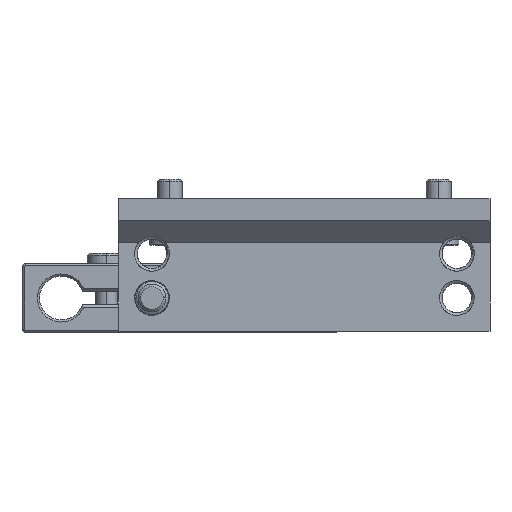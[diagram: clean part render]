
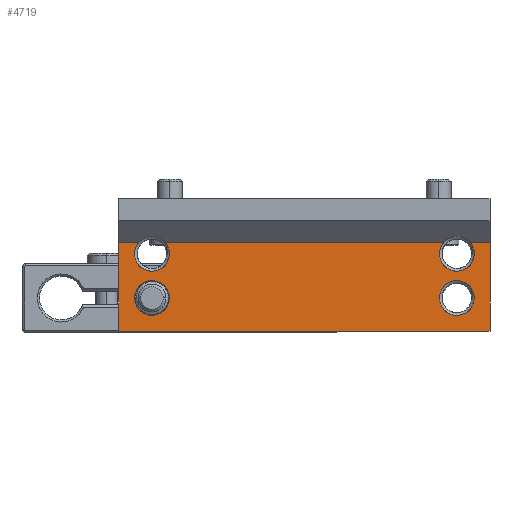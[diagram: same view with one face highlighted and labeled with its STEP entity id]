
A CAD part, front view. The second image highlights one B-rep face of the part: STEP entity #4719.
In plain terms, the highlighted planar face has unit normal (0, -1, 0).
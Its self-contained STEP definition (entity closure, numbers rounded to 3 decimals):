
#1614=DIRECTION('',(0.,0.,-1.));
#1615=VECTOR('',#1614,10.16);
#1616=CARTESIAN_POINT('',(26.541,-8.286,
0.98));
#1617=LINE('',#1616,#1615);
#1646=CARTESIAN_POINT('',(22.731,-8.286,
-0.29));
#1647=DIRECTION('',(0.,1.,0.));
#1648=DIRECTION('',(0.,0.,-1.));
#1649=AXIS2_PLACEMENT_3D('',#1646,#1647,#1648);
#1651=CARTESIAN_POINT('',(22.731,-8.286,
-0.29));
#1652=DIRECTION('',(0.,1.,0.));
#1653=DIRECTION('',(0.773,0.,0.635));
#1654=AXIS2_PLACEMENT_3D('',#1651,#1652,#1653);
#1656=DIRECTION('',(1.,0.,0.));
#1657=VECTOR('',#1656,42.672);
#1658=CARTESIAN_POINT('',(-16.131,-8.286,
-9.18));
#1659=LINE('',#1658,#1657);
#1660=DIRECTION('',(0.,0.,-1.));
#1661=VECTOR('',#1660,10.16);
#1662=CARTESIAN_POINT('',(-16.131,-8.286,
0.98));
#1663=LINE('',#1662,#1661);
#1664=CARTESIAN_POINT('',(-12.321,-8.286,
-0.29));
#1665=DIRECTION('',(0.,1.,0.));
#1666=DIRECTION('',(0.,0.,-1.));
#1667=AXIS2_PLACEMENT_3D('',#1664,#1665,#1666);
#1669=CARTESIAN_POINT('',(-12.321,-8.286,
-0.29));
#1670=DIRECTION('',(0.,1.,0.));
#1671=DIRECTION('',(0.773,0.,0.635));
#1672=AXIS2_PLACEMENT_3D('',#1669,#1670,#1671);
#1674=CARTESIAN_POINT('',(22.731,-8.286,
-5.37));
#1675=DIRECTION('',(0.,1.,0.));
#1676=DIRECTION('',(0.,0.,-1.));
#1677=AXIS2_PLACEMENT_3D('',#1674,#1675,#1676);
#1679=CARTESIAN_POINT('',(22.731,-8.286,
-5.37));
#1680=DIRECTION('',(0.,1.,0.));
#1681=DIRECTION('',(0.,0.,1.));
#1682=AXIS2_PLACEMENT_3D('',#1679,#1680,#1681);
#1684=CARTESIAN_POINT('',(-12.321,-8.286,
-5.37));
#1685=DIRECTION('',(0.,1.,0.));
#1686=DIRECTION('',(0.,0.,-1.));
#1687=AXIS2_PLACEMENT_3D('',#1684,#1685,#1686);
#1689=CARTESIAN_POINT('',(-12.321,-8.286,
-5.37));
#1690=DIRECTION('',(0.,1.,0.));
#1691=DIRECTION('',(0.,0.,1.));
#1692=AXIS2_PLACEMENT_3D('',#1689,#1690,#1691);
#2227=CARTESIAN_POINT('',(21.186,-8.286,
0.98));
#2234=DIRECTION('',(1.,0.,0.));
#2235=VECTOR('',#2234,31.962);
#2236=CARTESIAN_POINT('',(-10.776,-8.286,
0.98));
#2237=LINE('',#2236,#2235);
#2243=CARTESIAN_POINT('',(-10.776,-8.286,
0.98));
#2252=DIRECTION('',(1.,0.,0.));
#2253=VECTOR('',#2252,2.265);
#2254=CARTESIAN_POINT('',(-16.131,-8.286,
0.98));
#2255=LINE('',#2254,#2253);
#2256=DIRECTION('',(1.,0.,0.));
#2257=VECTOR('',#2256,2.265);
#2258=CARTESIAN_POINT('',(24.276,-8.286,
0.98));
#2259=LINE('',#2258,#2257);
#4012=CARTESIAN_POINT('',(26.541,-8.286,
0.98));
#4013=CARTESIAN_POINT('',(26.541,-8.286,
-9.18));
#4014=VERTEX_POINT('',#4012);
#4015=VERTEX_POINT('',#4013);
#4070=CARTESIAN_POINT('',(-16.131,-8.286,
-9.18));
#4071=VERTEX_POINT('',#4070);
#4072=CARTESIAN_POINT('',(-16.131,-8.286,
0.98));
#4073=VERTEX_POINT('',#4072);
#4142=CARTESIAN_POINT('',(24.276,-8.286,
0.98));
#4143=VERTEX_POINT('',#4142);
#4145=VERTEX_POINT('',#2243);
#4146=VERTEX_POINT('',#2227);
#4148=CARTESIAN_POINT('',(-12.321,-8.286,
-7.37));
#4149=CARTESIAN_POINT('',(-12.321,-8.286,
-3.37));
#4150=VERTEX_POINT('',#4148);
#4151=VERTEX_POINT('',#4149);
#4152=CARTESIAN_POINT('',(22.731,-8.286,
-7.37));
#4153=CARTESIAN_POINT('',(22.731,-8.286,
-3.37));
#4154=VERTEX_POINT('',#4152);
#4155=VERTEX_POINT('',#4153);
#4156=CARTESIAN_POINT('',(-12.321,-8.286,
-2.29));
#4157=CARTESIAN_POINT('',(-13.866,-8.286,
0.98));
#4158=VERTEX_POINT('',#4156);
#4159=VERTEX_POINT('',#4157);
#4160=CARTESIAN_POINT('',(22.731,-8.286,
-2.29));
#4161=VERTEX_POINT('',#4160);
#4683=CARTESIAN_POINT('',(43.051,-8.286,
0.98));
#4684=DIRECTION('',(0.,-1.,0.));
#4685=DIRECTION('',(0.,0.,-1.));
#4686=AXIS2_PLACEMENT_3D('',#4683,#4684,#4685);
#4687=PLANE('',#4686);
#4689=ORIENTED_EDGE('',*,*,#4688,.F.);
#4691=ORIENTED_EDGE('',*,*,#4690,.F.);
#4693=ORIENTED_EDGE('',*,*,#4692,.T.);
#4694=ORIENTED_EDGE('',*,*,#4623,.T.);
#4695=ORIENTED_EDGE('',*,*,#4435,.F.);
#4696=ORIENTED_EDGE('',*,*,#4457,.F.);
#4698=ORIENTED_EDGE('',*,*,#4697,.T.);
#4700=ORIENTED_EDGE('',*,*,#4699,.F.);
#4702=ORIENTED_EDGE('',*,*,#4701,.F.);
#4704=ORIENTED_EDGE('',*,*,#4703,.T.);
#4705=EDGE_LOOP('',(#4689,#4691,#4693,#4694,#4695,#4696,#4698,#4700,#4702,
#4704));
#4706=FACE_OUTER_BOUND('',#4705,.F.);
#4708=ORIENTED_EDGE('',*,*,#4707,.F.);
#4710=ORIENTED_EDGE('',*,*,#4709,.F.);
#4711=EDGE_LOOP('',(#4708,#4710));
#4712=FACE_BOUND('',#4711,.F.);
#4714=ORIENTED_EDGE('',*,*,#4713,.F.);
#4716=ORIENTED_EDGE('',*,*,#4715,.F.);
#4717=EDGE_LOOP('',(#4714,#4716));
#4718=FACE_BOUND('',#4717,.F.);
#4719=ADVANCED_FACE('',(#4706,#4712,#4718),#4687,.T.);
#1650=CIRCLE('',#1649,2.);
#1655=CIRCLE('',#1654,2.);
#1668=CIRCLE('',#1667,2.);
#1673=CIRCLE('',#1672,2.);
#1678=CIRCLE('',#1677,2.);
#1683=CIRCLE('',#1682,2.);
#1688=CIRCLE('',#1687,2.);
#1693=CIRCLE('',#1692,2.);
#4435=EDGE_CURVE('',#4071,#4015,#1659,.T.);
#4457=EDGE_CURVE('',#4073,#4071,#1663,.T.);
#4623=EDGE_CURVE('',#4014,#4015,#1617,.T.);
#4688=EDGE_CURVE('',#4161,#4146,#1650,.T.);
#4690=EDGE_CURVE('',#4143,#4161,#1655,.T.);
#4692=EDGE_CURVE('',#4143,#4014,#2259,.T.);
#4697=EDGE_CURVE('',#4073,#4159,#2255,.T.);
#4699=EDGE_CURVE('',#4158,#4159,#1668,.T.);
#4701=EDGE_CURVE('',#4145,#4158,#1673,.T.);
#4703=EDGE_CURVE('',#4145,#4146,#2237,.T.);
#4707=EDGE_CURVE('',#4154,#4155,#1678,.T.);
#4709=EDGE_CURVE('',#4155,#4154,#1683,.T.);
#4713=EDGE_CURVE('',#4150,#4151,#1688,.T.);
#4715=EDGE_CURVE('',#4151,#4150,#1693,.T.);
